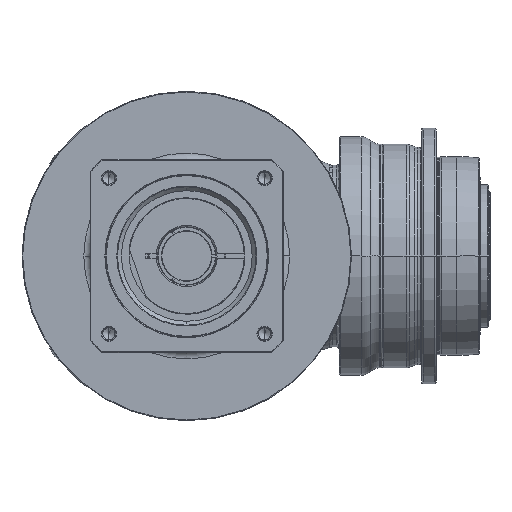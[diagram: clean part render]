
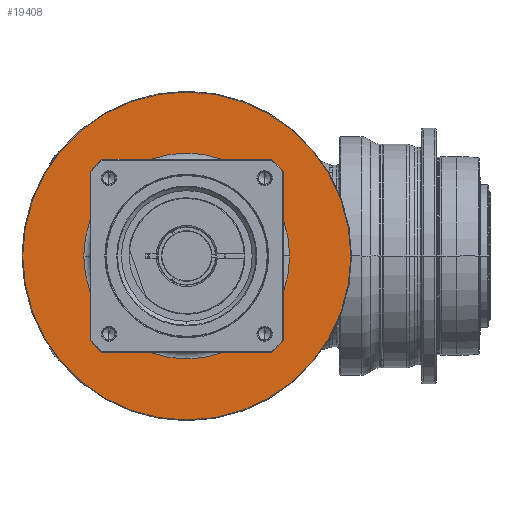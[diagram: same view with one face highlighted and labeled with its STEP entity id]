
A CAD part, front view. The second image highlights one B-rep face of the part: STEP entity #19408.
In plain terms, the highlighted planar face has unit normal (0, -1, 0) as drawn and (1, 0, 0) by its records, which use the part's own axes.
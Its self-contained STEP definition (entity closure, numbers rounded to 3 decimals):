
#18887=CARTESIAN_POINT('',(-7.5,0.,0.));
#18888=DIRECTION('',(-1.,0.,0.));
#18889=DIRECTION('',(0.,-1.,0.));
#18890=AXIS2_PLACEMENT_3D('',#18887,#18888,#18889);
#18892=CARTESIAN_POINT('',(-7.5,0.,0.));
#18893=DIRECTION('',(-1.,0.,0.));
#18894=DIRECTION('',(0.,1.,0.));
#18895=AXIS2_PLACEMENT_3D('',#18892,#18893,#18894);
#18897=CARTESIAN_POINT('',(-7.5,0.,0.));
#18898=DIRECTION('',(-1.,0.,0.));
#18899=DIRECTION('',(0.,-1.,0.));
#18900=AXIS2_PLACEMENT_3D('',#18897,#18898,#18899);
#18902=CARTESIAN_POINT('',(-7.5,0.,0.));
#18903=DIRECTION('',(-1.,0.,0.));
#18904=DIRECTION('',(0.,1.,0.));
#18905=AXIS2_PLACEMENT_3D('',#18902,#18903,#18904);
#18971=CARTESIAN_POINT('',(-7.5,-115.5,0.));
#18972=CARTESIAN_POINT('',(-7.5,115.5,0.));
#18973=VERTEX_POINT('',#18971);
#18974=VERTEX_POINT('',#18972);
#18995=CARTESIAN_POINT('',(-7.5,-72.5,0.));
#18996=CARTESIAN_POINT('',(-7.5,72.5,0.));
#18997=VERTEX_POINT('',#18995);
#18998=VERTEX_POINT('',#18996);
#19393=CARTESIAN_POINT('',(-7.5,0.,0.));
#19394=DIRECTION('',(1.,0.,0.));
#19395=DIRECTION('',(0.,-1.,0.));
#19396=AXIS2_PLACEMENT_3D('',#19393,#19394,#19395);
#19397=PLANE('',#19396);
#19398=ORIENTED_EDGE('',*,*,#19334,.T.);
#19399=ORIENTED_EDGE('',*,*,#19349,.T.);
#19400=EDGE_LOOP('',(#19398,#19399));
#19401=FACE_OUTER_BOUND('',#19400,.F.);
#19403=ORIENTED_EDGE('',*,*,#19402,.F.);
#19405=ORIENTED_EDGE('',*,*,#19404,.F.);
#19406=EDGE_LOOP('',(#19403,#19405));
#19407=FACE_BOUND('',#19406,.F.);
#19408=ADVANCED_FACE('',(#19401,#19407),#19397,.T.);
#18891=CIRCLE('',#18890,72.5);
#18896=CIRCLE('',#18895,72.5);
#18901=CIRCLE('',#18900,115.5);
#18906=CIRCLE('',#18905,115.5);
#19334=EDGE_CURVE('',#18973,#18974,#18901,.T.);
#19349=EDGE_CURVE('',#18974,#18973,#18906,.T.);
#19402=EDGE_CURVE('',#18997,#18998,#18891,.T.);
#19404=EDGE_CURVE('',#18998,#18997,#18896,.T.);
